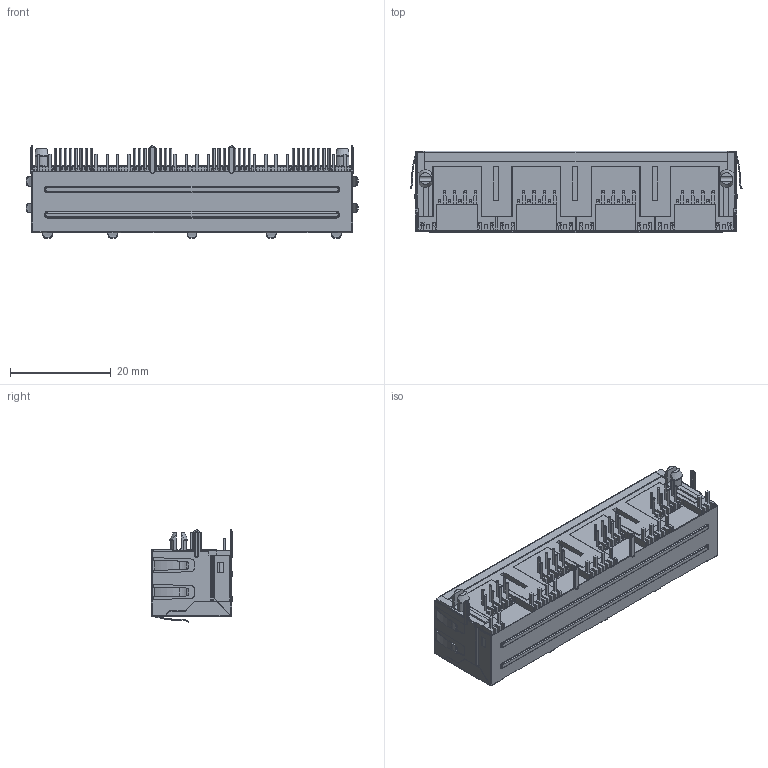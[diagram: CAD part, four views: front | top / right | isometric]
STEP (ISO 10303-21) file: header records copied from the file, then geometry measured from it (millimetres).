
FILE_DESCRIPTION((''),'2;1');
FILE_NAME('ASM0001_ASM','2020-04-14T16:37:23',('Administrator'),(''),'CREO PARAMETRIC BY PTC INC, 2018400','CREO PARAMETRIC BY PTC INC, 2018400','');
FILE_SCHEMA(('CONFIG_CONTROL_DESIGN'));
Length unit declared in the file: millimetre
Products named in the file (9): T; SU; LED; LED2; CT; Y; Y2; Y_ASM; ASM0001_ASM
Assembly tree (26 placements, depth 3):
  ASM0001_ASM
    T
    SU
    LED  x4
    LED2  x4
    CT  x4
    Y_ASM  x4
      Y
      Y2
Bounding box: 65.98 x 16.25 x 18.35 mm (x, y, z)
Volume: 6937.5 mm3; surface area: 18853.3 mm2
Topology: 46 solids, 46 shells, 3106 faces, 8399 edges, 5304 vertices
Faces by surface type: plane 2189, cylinder 707, torus 144, bspline 60, cone 4, sphere 2
Entity records: 65260 total; most frequent: CARTESIAN_POINT 14100, ORIENTED_EDGE 11014, DIRECTION 10045, EDGE_CURVE 5507, VECTOR 4503, LINE 4503, VERTEX_POINT 3474, AXIS2_PLACEMENT_3D 2771
